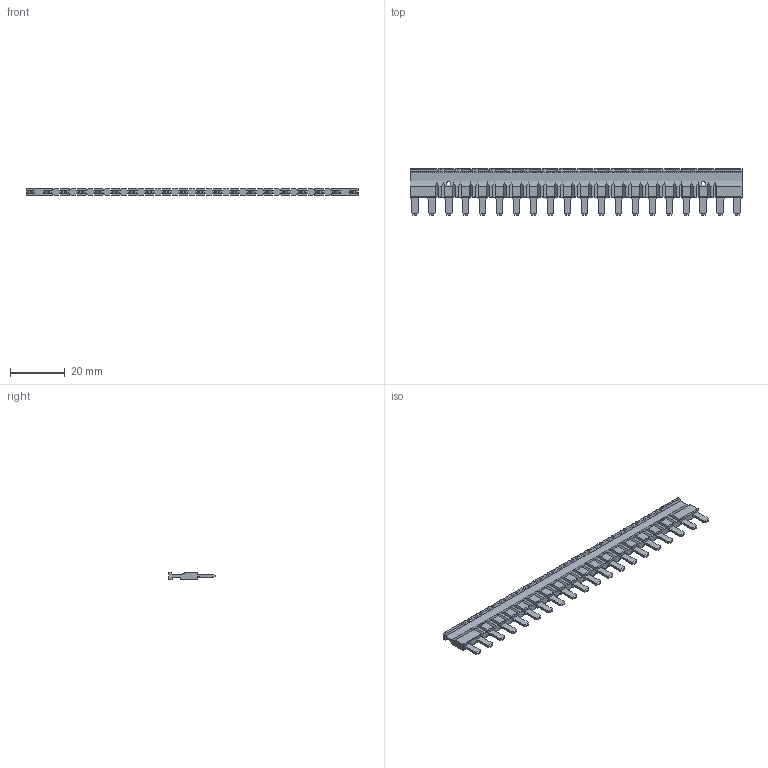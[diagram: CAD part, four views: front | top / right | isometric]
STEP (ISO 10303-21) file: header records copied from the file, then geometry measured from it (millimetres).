
FILE_DESCRIPTION (( 'STEP AP203' ), '1' );
FILE_NAME ('SN20B 连接桥.STEP', '2024-11-28T06:23:40', ( 'admin' ), ( '' ), 'SwSTEP 2.0', 'SolidWorks 2022', '' );
FILE_SCHEMA (( 'CONFIG_CONTROL_DESIGN' ));
Length unit declared in the file: millimetre
Products named in the file (1): SN20B 蟀諉Э
Bounding box: 121.3 x 17 x 2.8 mm (x, y, z)
Volume: 2714.6 mm3; surface area: 4748.5 mm2
Topology: 1 solids, 1 shells, 830 faces, 2424 edges, 1616 vertices
Faces by surface type: plane 684, cylinder 146
Entity records: 26987 total; most frequent: CARTESIAN_POINT 5705, ORIENTED_EDGE 4848, DIRECTION 3822, EDGE_CURVE 2424, VECTOR 2132, LINE 2132, VERTEX_POINT 1616, EDGE_LOOP 854
